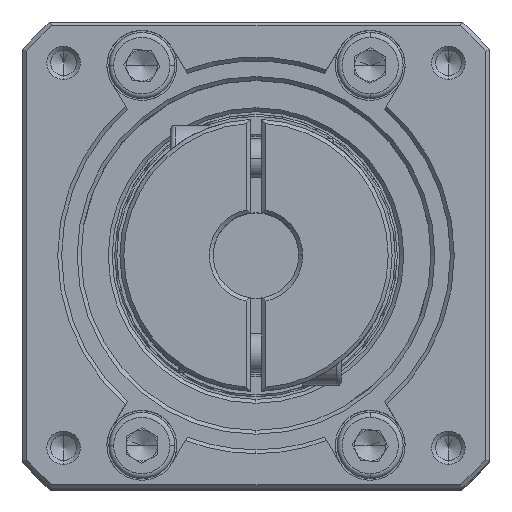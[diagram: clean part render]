
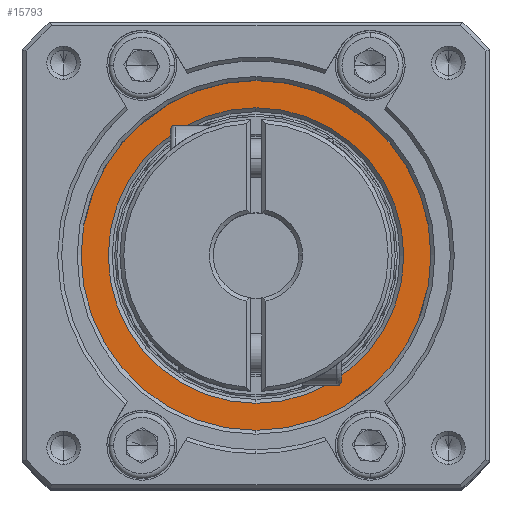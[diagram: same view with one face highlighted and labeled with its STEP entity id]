
A CAD part, top view. The second image highlights one B-rep face of the part: STEP entity #15793.
In plain terms, the highlighted planar face has unit normal (0, 0, 1).
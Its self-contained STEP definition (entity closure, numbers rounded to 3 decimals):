
#253 = ORIENTED_EDGE ( 'NONE', *, *, #68974, .T. ) ;
#3478 = PLANE ( 'NONE',  #70513 ) ;
#4923 = CARTESIAN_POINT ( 'NONE',  ( -26.37, 4.341, 174.002 ) ) ;
#5416 = VERTEX_POINT ( 'NONE', #70768 ) ;
#12038 = CIRCLE ( 'NONE', #82915, 22.5 ) ;
#13706 = DIRECTION ( 'NONE',  ( 0., -1., 0. ) ) ;
#13754 = CARTESIAN_POINT ( 'NONE',  ( -26.37, 23.341, 174.002 ) ) ;
#15793 = ADVANCED_FACE ( 'NONE', ( #44334, #67545 ), #3478, .T. ) ;
#17046 = CIRCLE ( 'NONE', #55218, 19. ) ;
#19170 = EDGE_CURVE ( 'NONE', #64335, #5416, #17046, .T. ) ;
#19918 = CARTESIAN_POINT ( 'NONE',  ( -26.37, 4.341, 174.002 ) ) ;
#28489 = EDGE_CURVE ( 'NONE', #106867, #44949, #104441, .T. ) ;
#28754 = DIRECTION ( 'NONE',  ( 0., -1., 0. ) ) ;
#33626 = CARTESIAN_POINT ( 'NONE',  ( -26.37, 4.341, 174.002 ) ) ;
#39376 = CARTESIAN_POINT ( 'NONE',  ( -26.37, 4.341, 174.002 ) ) ;
#42415 = DIRECTION ( 'NONE',  ( 0., -1., 0. ) ) ;
#44334 = FACE_BOUND ( 'NONE', #67630, .T. ) ;
#44827 = ORIENTED_EDGE ( 'NONE', *, *, #19170, .T. ) ;
#44949 = VERTEX_POINT ( 'NONE', #100438 ) ;
#46736 = ORIENTED_EDGE ( 'NONE', *, *, #57859, .T. ) ;
#48197 = DIRECTION ( 'NONE',  ( 0., -1., 0. ) ) ;
#49146 = AXIS2_PLACEMENT_3D ( 'NONE', #4923, #66108, #13706 ) ;
#51091 = CARTESIAN_POINT ( 'NONE',  ( -26.37, 4.341, 174.002 ) ) ;
#55218 = AXIS2_PLACEMENT_3D ( 'NONE', #33626, #94745, #42415 ) ;
#57859 = EDGE_CURVE ( 'NONE', #5416, #64335, #95889, .T. ) ;
#59863 = DIRECTION ( 'NONE',  ( 0., -1., 0. ) ) ;
#63760 = AXIS2_PLACEMENT_3D ( 'NONE', #51091, #112179, #59863 ) ;
#64335 = VERTEX_POINT ( 'NONE', #13754 ) ;
#66108 = DIRECTION ( 'NONE',  ( 0., 0., -1. ) ) ;
#67545 = FACE_OUTER_BOUND ( 'NONE', #81544, .T. ) ;
#67630 = EDGE_LOOP ( 'NONE', ( #46736, #44827 ) ) ;
#68974 = EDGE_CURVE ( 'NONE', #44949, #106867, #12038, .T. ) ;
#70513 = AXIS2_PLACEMENT_3D ( 'NONE', #39376, #100517, #48197 ) ;
#70768 = CARTESIAN_POINT ( 'NONE',  ( -26.37, -14.659, 174.002 ) ) ;
#81046 = DIRECTION ( 'NONE',  ( 0., 0., 1. ) ) ;
#81544 = EDGE_LOOP ( 'NONE', ( #106805, #253 ) ) ;
#82915 = AXIS2_PLACEMENT_3D ( 'NONE', #19918, #81046, #28754 ) ;
#84284 = CARTESIAN_POINT ( 'NONE',  ( -26.37, -18.159, 174.002 ) ) ;
#94745 = DIRECTION ( 'NONE',  ( 0., 0., -1. ) ) ;
#95889 = CIRCLE ( 'NONE', #49146, 19. ) ;
#100438 = CARTESIAN_POINT ( 'NONE',  ( -26.37, 26.841, 174.002 ) ) ;
#100517 = DIRECTION ( 'NONE',  ( 0., 0., 1. ) ) ;
#104441 = CIRCLE ( 'NONE', #63760, 22.5 ) ;
#106805 = ORIENTED_EDGE ( 'NONE', *, *, #28489, .T. ) ;
#106867 = VERTEX_POINT ( 'NONE', #84284 ) ;
#112179 = DIRECTION ( 'NONE',  ( 0., 0., 1. ) ) ;
